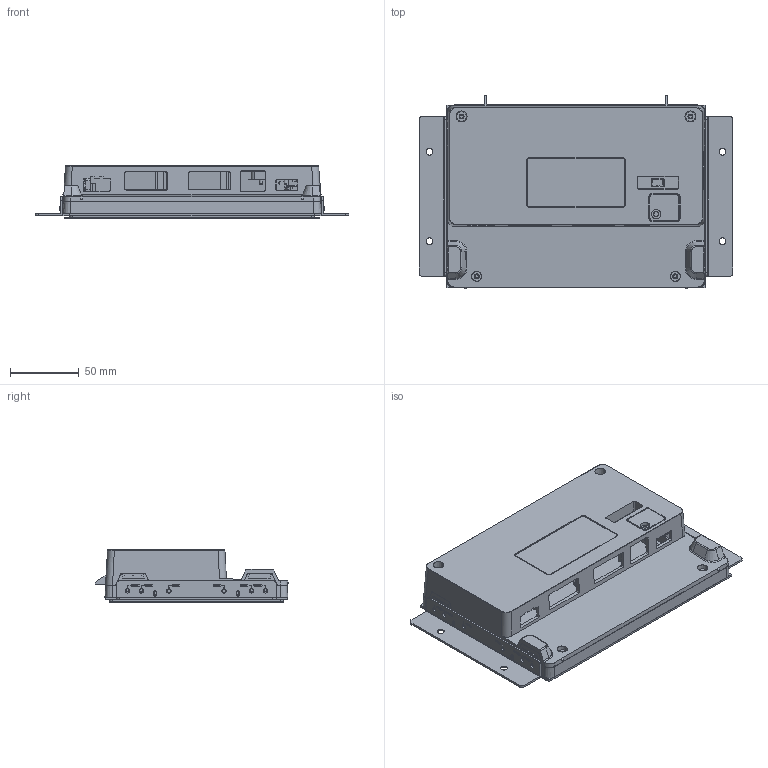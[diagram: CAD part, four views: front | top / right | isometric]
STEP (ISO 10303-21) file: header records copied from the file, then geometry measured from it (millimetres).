
FILE_DESCRIPTION((''),'2;1');
FILE_NAME('MFR9179501_ASM','2019-10-23T',('SESA504024'),('Schneider-Electric'),'PRO/ENGINEER BY PARAMETRIC TECHNOLOGY CORPORATION, 2015440','PRO/ENGINEER BY PARAMETRIC TECHNOLOGY CORPORATION, 2015440','');
FILE_SCHEMA(('CONFIG_CONTROL_DESIGN'));
Products named in the file (19): MFR9179601; MFR9180101; MFR9180201; EAV7694301; EAV9112201; NHA2948401; MFR9180301_AF0; MFR9180301_AF1; MFR9180501_AF0; MFR9180501_AF1; MFR9180001; GDE1032401; NHA4210301_A_1; NHA4210401_A_1; NHA7359301_A_1; RTC_BATTERY_AURORA_ASM_ASM_1_ASM; HUA24933_YITIAN; RTC_BATTERY_AURORA_ASM_ASM_ASM; MFR9179501_ASM
Assembly tree (21 placements, depth 4):
  MFR9179501_ASM
    MFR9179601
    MFR9180101  x2
    MFR9180201  x2
    EAV7694301
    EAV9112201
    NHA2948401
    MFR9180301_AF0
    MFR9180301_AF1
    MFR9180501_AF0
    MFR9180501_AF1
    MFR9180001  x2
    GDE1032401
    RTC_BATTERY_AURORA_ASM_ASM_ASM
      RTC_BATTERY_AURORA_ASM_ASM_1_ASM
        NHA4210301_A_1
        NHA4210401_A_1
        NHA7359301_A_1
      HUA24933_YITIAN
Bounding box: 227.5 x 140.27 x 38.05 mm (x, y, z)
Volume: 172426.2 mm3; surface area: 231863.7 mm2
Topology: 19 solids, 19 shells, 5473 faces, 15077 edges, 9853 vertices
Faces by surface type: plane 4480, cylinder 539, cone 279, bspline 66, torus 64, extrusion 29, sphere 16
Entity records: 145566 total; most frequent: CARTESIAN_POINT 31225, ORIENTED_EDGE 24726, DIRECTION 21801, EDGE_CURVE 12363, VECTOR 10265, LINE 10236, VERTEX_POINT 8053, AXIS2_PLACEMENT_3D 5768
